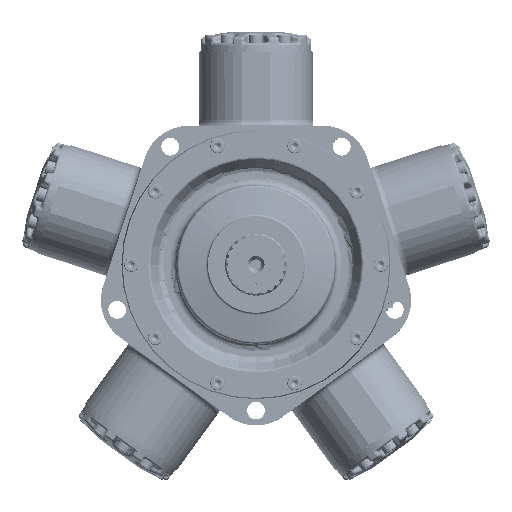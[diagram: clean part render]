
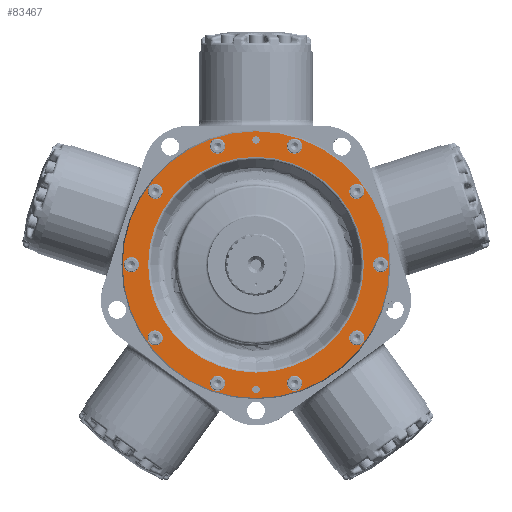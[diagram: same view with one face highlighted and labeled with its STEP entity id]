
A CAD part, top view. The second image highlights one B-rep face of the part: STEP entity #83467.
In plain terms, the highlighted planar face has unit normal (0, 0, 1).
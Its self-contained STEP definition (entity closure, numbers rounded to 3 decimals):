
#3188=FACE_BOUND('',#15681,.T.);
#3189=FACE_BOUND('',#15682,.T.);
#3190=FACE_BOUND('',#15683,.T.);
#3191=FACE_BOUND('',#15684,.T.);
#3192=FACE_BOUND('',#15685,.T.);
#3193=FACE_BOUND('',#15686,.T.);
#3194=FACE_BOUND('',#15687,.T.);
#3195=FACE_BOUND('',#15688,.T.);
#3196=FACE_BOUND('',#15689,.T.);
#3197=FACE_BOUND('',#15690,.T.);
#3198=FACE_BOUND('',#15691,.T.);
#3199=FACE_BOUND('',#15692,.T.);
#3200=FACE_BOUND('',#15693,.T.);
#5236=PLANE('',#90766);
#10140=FACE_OUTER_BOUND('',#15680,.T.);
#15680=EDGE_LOOP('',(#74665));
#15681=EDGE_LOOP('',(#74666));
#15682=EDGE_LOOP('',(#74667));
#15683=EDGE_LOOP('',(#74668));
#15684=EDGE_LOOP('',(#74669));
#15685=EDGE_LOOP('',(#74670));
#15686=EDGE_LOOP('',(#74671));
#15687=EDGE_LOOP('',(#74672));
#15688=EDGE_LOOP('',(#74673));
#15689=EDGE_LOOP('',(#74674));
#15690=EDGE_LOOP('',(#74675));
#15691=EDGE_LOOP('',(#74676));
#15692=EDGE_LOOP('',(#74677));
#15693=EDGE_LOOP('',(#74678));
#27773=CIRCLE('',#90577,120.896);
#27842=CIRCLE('',#90767,149.491);
#27843=CIRCLE('',#90768,4.188);
#27844=CIRCLE('',#90769,4.188);
#27845=CIRCLE('',#90770,8.5);
#27846=CIRCLE('',#90771,8.5);
#27847=CIRCLE('',#90772,8.5);
#27848=CIRCLE('',#90773,8.5);
#27849=CIRCLE('',#90774,8.5);
#27850=CIRCLE('',#90775,8.5);
#27851=CIRCLE('',#90776,8.5);
#27852=CIRCLE('',#90777,8.5);
#27853=CIRCLE('',#90778,8.5);
#27854=CIRCLE('',#90779,8.5);
#38355=VERTEX_POINT('',#202619);
#38807=VERTEX_POINT('',#206061);
#38808=VERTEX_POINT('',#206063);
#38809=VERTEX_POINT('',#206065);
#38810=VERTEX_POINT('',#206067);
#38811=VERTEX_POINT('',#206069);
#38812=VERTEX_POINT('',#206071);
#38813=VERTEX_POINT('',#206073);
#38814=VERTEX_POINT('',#206075);
#38815=VERTEX_POINT('',#206077);
#38816=VERTEX_POINT('',#206079);
#38817=VERTEX_POINT('',#206081);
#38818=VERTEX_POINT('',#206083);
#38819=VERTEX_POINT('',#206085);
#50217=EDGE_CURVE('',#38355,#38355,#27773,.T.);
#50894=EDGE_CURVE('',#38807,#38807,#27842,.T.);
#50895=EDGE_CURVE('',#38808,#38808,#27843,.T.);
#50896=EDGE_CURVE('',#38809,#38809,#27844,.T.);
#50897=EDGE_CURVE('',#38810,#38810,#27845,.T.);
#50898=EDGE_CURVE('',#38811,#38811,#27846,.T.);
#50899=EDGE_CURVE('',#38812,#38812,#27847,.T.);
#50900=EDGE_CURVE('',#38813,#38813,#27848,.T.);
#50901=EDGE_CURVE('',#38814,#38814,#27849,.T.);
#50902=EDGE_CURVE('',#38815,#38815,#27850,.T.);
#50903=EDGE_CURVE('',#38816,#38816,#27851,.T.);
#50904=EDGE_CURVE('',#38817,#38817,#27852,.T.);
#50905=EDGE_CURVE('',#38818,#38818,#27853,.T.);
#50906=EDGE_CURVE('',#38819,#38819,#27854,.T.);
#74665=ORIENTED_EDGE('',*,*,#50894,.F.);
#74666=ORIENTED_EDGE('',*,*,#50895,.T.);
#74667=ORIENTED_EDGE('',*,*,#50896,.T.);
#74668=ORIENTED_EDGE('',*,*,#50897,.T.);
#74669=ORIENTED_EDGE('',*,*,#50898,.T.);
#74670=ORIENTED_EDGE('',*,*,#50899,.T.);
#74671=ORIENTED_EDGE('',*,*,#50900,.T.);
#74672=ORIENTED_EDGE('',*,*,#50901,.T.);
#74673=ORIENTED_EDGE('',*,*,#50902,.T.);
#74674=ORIENTED_EDGE('',*,*,#50903,.T.);
#74675=ORIENTED_EDGE('',*,*,#50904,.T.);
#74676=ORIENTED_EDGE('',*,*,#50905,.T.);
#74677=ORIENTED_EDGE('',*,*,#50906,.T.);
#74678=ORIENTED_EDGE('',*,*,#50217,.T.);
#83467=ADVANCED_FACE('',(#10140,#3188,#3189,#3190,#3191,#3192,#3193,#3194,
#3195,#3196,#3197,#3198,#3199,#3200),#5236,.T.);
#90577=AXIS2_PLACEMENT_3D('',#202620,#108199,#108200);
#90766=AXIS2_PLACEMENT_3D('',#206060,#108862,#108863);
#90767=AXIS2_PLACEMENT_3D('',#206062,#108864,#108865);
#90768=AXIS2_PLACEMENT_3D('',#206064,#108866,#108867);
#90769=AXIS2_PLACEMENT_3D('',#206066,#108868,#108869);
#90770=AXIS2_PLACEMENT_3D('',#206068,#108870,#108871);
#90771=AXIS2_PLACEMENT_3D('',#206070,#108872,#108873);
#90772=AXIS2_PLACEMENT_3D('',#206072,#108874,#108875);
#90773=AXIS2_PLACEMENT_3D('',#206074,#108876,#108877);
#90774=AXIS2_PLACEMENT_3D('',#206076,#108878,#108879);
#90775=AXIS2_PLACEMENT_3D('',#206078,#108880,#108881);
#90776=AXIS2_PLACEMENT_3D('',#206080,#108882,#108883);
#90777=AXIS2_PLACEMENT_3D('',#206082,#108884,#108885);
#90778=AXIS2_PLACEMENT_3D('',#206084,#108886,#108887);
#90779=AXIS2_PLACEMENT_3D('',#206086,#108888,#108889);
#108199=DIRECTION('center_axis',(0.,0.,
-1.));
#108200=DIRECTION('ref_axis',(0.,-1.,0.));
#108862=DIRECTION('center_axis',(0.,0.,
1.));
#108863=DIRECTION('ref_axis',(-1.,0.,0.));
#108864=DIRECTION('center_axis',(0.,0.,
-1.));
#108865=DIRECTION('ref_axis',(0.,1.,0.));
#108866=DIRECTION('center_axis',(0.,0.,
-1.));
#108867=DIRECTION('ref_axis',(-1.,0.,0.));
#108868=DIRECTION('center_axis',(0.,0.,
-1.));
#108869=DIRECTION('ref_axis',(-1.,0.,0.));
#108870=DIRECTION('center_axis',(0.,0.,
-1.));
#108871=DIRECTION('ref_axis',(0.809,-0.588,0.));
#108872=DIRECTION('center_axis',(0.,0.,
-1.));
#108873=DIRECTION('ref_axis',(0.309,-0.951,0.));
#108874=DIRECTION('center_axis',(0.,0.,
-1.));
#108875=DIRECTION('ref_axis',(-0.309,-0.951,0.));
#108876=DIRECTION('center_axis',(0.,0.,
-1.));
#108877=DIRECTION('ref_axis',(-0.809,-0.588,0.));
#108878=DIRECTION('center_axis',(0.,0.,
-1.));
#108879=DIRECTION('ref_axis',(-1.,0.,0.));
#108880=DIRECTION('center_axis',(0.,0.,
-1.));
#108881=DIRECTION('ref_axis',(-0.809,0.588,0.));
#108882=DIRECTION('center_axis',(0.,0.,
-1.));
#108883=DIRECTION('ref_axis',(-0.309,0.951,0.));
#108884=DIRECTION('center_axis',(0.,0.,
-1.));
#108885=DIRECTION('ref_axis',(0.309,0.951,0.));
#108886=DIRECTION('center_axis',(0.,0.,
-1.));
#108887=DIRECTION('ref_axis',(0.809,0.588,0.));
#108888=DIRECTION('center_axis',(0.,0.,
-1.));
#108889=DIRECTION('ref_axis',(1.,0.,0.));
#202619=CARTESIAN_POINT('',(-120.896,0.,85.078));
#202620=CARTESIAN_POINT('Origin',(0.,0.,
85.078));
#206060=CARTESIAN_POINT('Origin',(0.,-135.854,
85.078));
#206061=CARTESIAN_POINT('',(0.,-149.491,85.078));
#206062=CARTESIAN_POINT('Origin',(0.,0.,
85.078));
#206063=CARTESIAN_POINT('',(4.188,-139.7,85.078));
#206064=CARTESIAN_POINT('Origin',(0.,-139.7,85.078));
#206065=CARTESIAN_POINT('',(4.188,139.7,85.078));
#206066=CARTESIAN_POINT('Origin',(0.,139.7,85.078));
#206067=CARTESIAN_POINT('',(-119.896,87.11,85.078));
#206068=CARTESIAN_POINT('Origin',(-113.02,82.114,85.078));
#206069=CARTESIAN_POINT('',(-45.796,140.947,85.078));
#206070=CARTESIAN_POINT('Origin',(-43.17,132.863,85.078));
#206071=CARTESIAN_POINT('',(45.796,140.947,85.078));
#206072=CARTESIAN_POINT('Origin',(43.17,132.863,85.078));
#206073=CARTESIAN_POINT('',(119.896,87.11,85.078));
#206074=CARTESIAN_POINT('Origin',(113.02,82.114,85.078));
#206075=CARTESIAN_POINT('',(148.2,0.,85.078));
#206076=CARTESIAN_POINT('Origin',(139.7,0.,85.078));
#206077=CARTESIAN_POINT('',(119.896,-87.11,85.078));
#206078=CARTESIAN_POINT('Origin',(113.02,-82.114,85.078));
#206079=CARTESIAN_POINT('',(45.796,-140.947,85.078));
#206080=CARTESIAN_POINT('Origin',(43.17,-132.863,85.078));
#206081=CARTESIAN_POINT('',(-45.796,-140.947,85.078));
#206082=CARTESIAN_POINT('Origin',(-43.17,-132.863,85.078));
#206083=CARTESIAN_POINT('',(-119.896,-87.11,85.078));
#206084=CARTESIAN_POINT('Origin',(-113.02,-82.114,85.078));
#206085=CARTESIAN_POINT('',(-148.2,0.,85.078));
#206086=CARTESIAN_POINT('Origin',(-139.7,0.,85.078));
